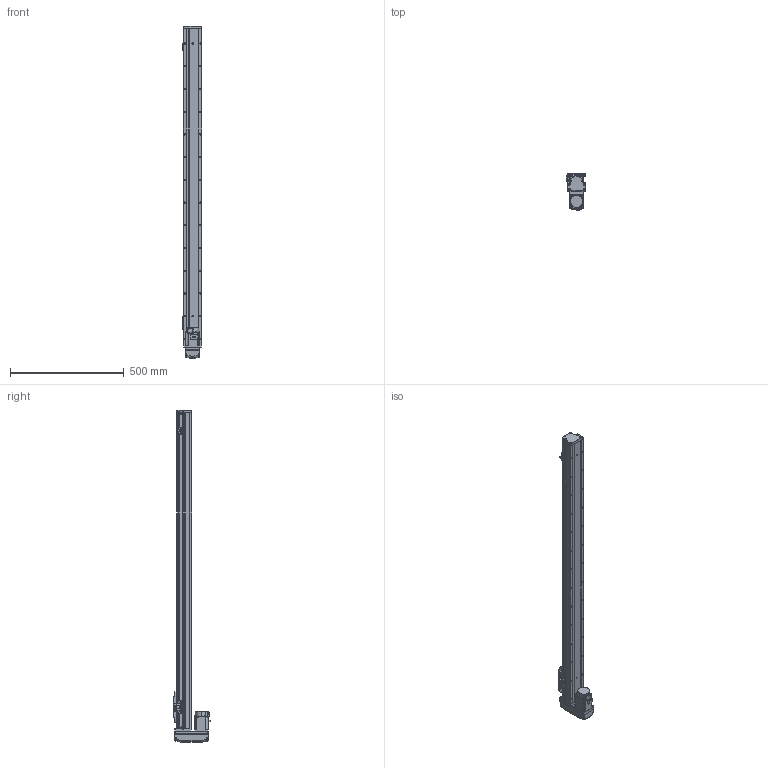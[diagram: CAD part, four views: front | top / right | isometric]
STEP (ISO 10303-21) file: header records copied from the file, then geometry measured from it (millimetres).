
FILE_DESCRIPTION (( 'STEP AP203' ), '1' );
FILE_NAME ('GTH8-1200-BM-M20-C4.step', '2023-08-28T00:57:41', ( '微软用户' ), ( '微软中国' ), 'SwSTEP 2.0', 'SolidWorks 2020', '' );
FILE_SCHEMA (( 'CONFIG_CONTROL_DESIGN' ));
Length unit declared in the file: millimetre
Products named in the file (18): GTH80-006; GTH50-024; GTH8-1200-BM-M20-C4; GTH80-013; GTH50-023; GBT 70.3-M3℅6; GBT96.1-2002 3×0.8; GTH80-022; BTH-M3X5X6; GTH80-001_1200; GBT 70.1-M3℅6; 三菱伺服电机[HG-KN23J-S100]; GTH80-003; GBT 70.1-M4×16; CTHA86-015-1_CTHA86-015-2; GTH80-004; GTH80-028; CTHA86-033_M40B
Assembly tree (57 placements, depth 2):
  GTH8-1200-BM-M20-C4
    GTH80-001_1200
    GTH80-003
    GTH80-004
    GTH80-006
    GTH80-013
    GBT 70.3-M3℅6  x4
    GTH80-022
    GBT 70.1-M3℅6  x14
    GBT 70.1-M4×16  x8
    GTH80-028  x2
    GTH50-024  x3
    GTH50-023  x3
    GBT96.1-2002 3×0.8  x6
    BTH-M3X5X6  x8
    三菱伺服电机[HG-KN23J-S100]
    CTHA86-015-1_CTHA86-015-2
    CTHA86-033_M40B
Bounding box: 86.9 x 160.3 x 1461 mm (x, y, z)
Volume: 6934890.1 mm3; surface area: 658419.1 mm2
Topology: 59 solids, 59 shells, 2212 faces, 5161 edges, 3173 vertices
Faces by surface type: plane 1151, cylinder 627, cone 260, torus 158, bspline 8, sphere 8
Entity records: 42343 total; most frequent: CARTESIAN_POINT 9299, DIRECTION 6296, ORIENTED_EDGE 6140, EDGE_CURVE 3070, AXIS2_PLACEMENT_3D 2178, VERTEX_POINT 1948, VECTOR 1940, LINE 1940
